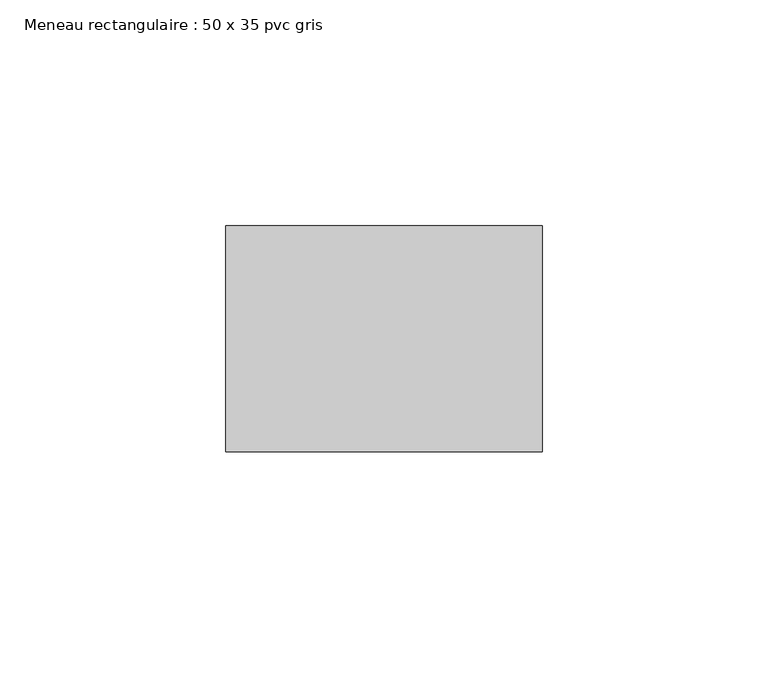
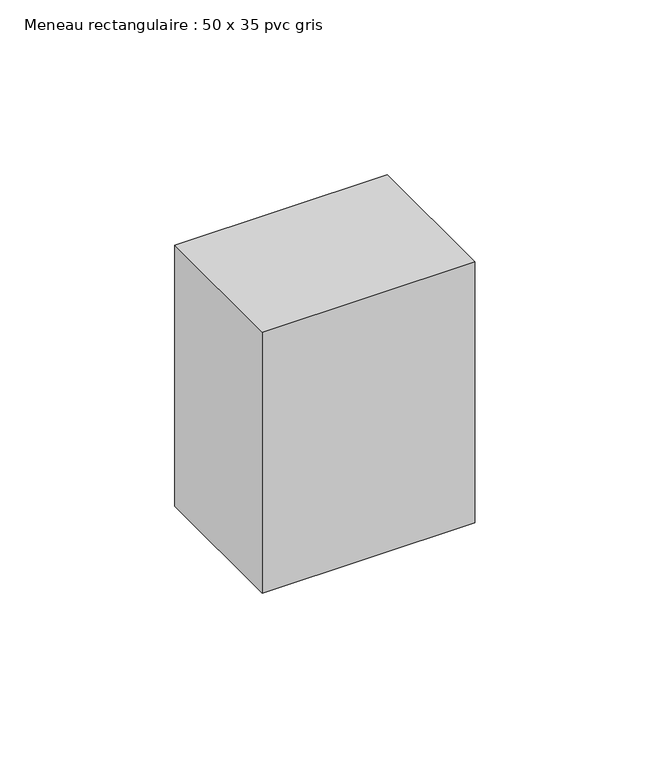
"""IFC4 building model written with IfcOpenShell, lengths in millimetres: member geometry, Meneau rectangulaire : 50 x 35 pvc gris."""

from ifc_helpers import new_model, si_unit, frame, origin, place, context, project, spatial, polyline, outline, extrude, source, transform, mapped, element, save


def meneau_rectangulaire_50_x_35_pvc_gris_1532b4f5(model_context):
    return source(origin(), model_context, "Body", "SweptSolid", [
        extrude(outline(polyline([(35.0, 0.0), (35.0, -50.0), (-35.0, -50.0), (-35.0, 0.0), (35.0, 0.0)])), frame((0.0, 0.0, -91.0), z_axis=(0.0, 0.0, 1.0), x_axis=(1.0, 0.0, 0.0)), (0.0, 0.0, 1.0), 91.0),
    ])


if __name__ == "__main__":
    model = new_model("IFC4")
    model_context = context("Model", 3, world=origin())
    ifc_project = project(units=[si_unit("LENGTHUNIT", "METRE", prefix="MILLI")], contexts=[model_context])
    site = spatial("IfcSite", under=ifc_project)
    building = spatial("IfcBuilding", under=site)
    placement = place(None, origin())
    meneau_rectangulaire_50_x_35_pvc_gris_shape = meneau_rectangulaire_50_x_35_pvc_gris_1532b4f5(model_context)
    element("IfcMember", 1, ObjectType="Meneau rectangulaire : 50 x 35 pvc gris", at=placement, inside=building, context=model_context, shape_type="MappedRepresentation", body=[
        mapped(meneau_rectangulaire_50_x_35_pvc_gris_shape, transform((0.0, 0.0, 0.0), x_axis=(1.0, 0.0, 0.0), y_axis=(0.0, 1.0, 0.0), z_axis=(0.0, 0.0, 1.0))),
    ])
    save(model, "model.ifc")
